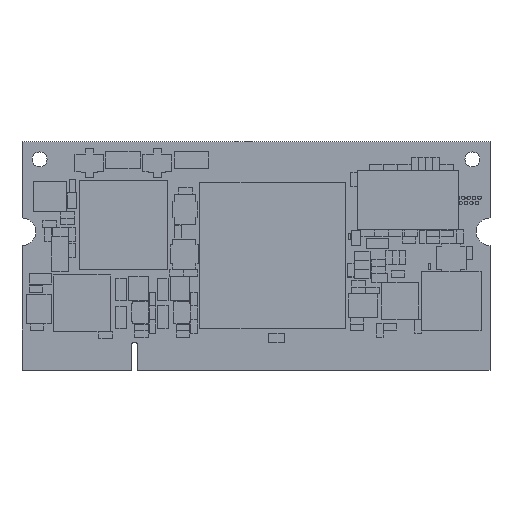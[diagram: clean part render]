
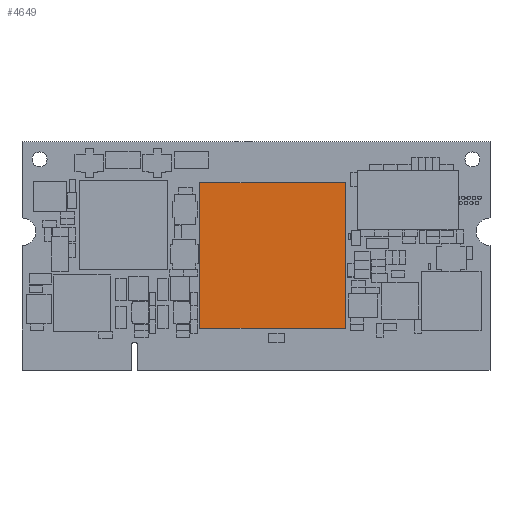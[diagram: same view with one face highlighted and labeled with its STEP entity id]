
A CAD part, top view. The second image highlights one B-rep face of the part: STEP entity #4649.
In plain terms, the highlighted planar face has unit normal (0, 0, 1).
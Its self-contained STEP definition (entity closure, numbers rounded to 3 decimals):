
#4400 = EDGE_CURVE ( 'NONE', #19506, #19451, #91615, .T. ) ;
#4404 = EDGE_CURVE ( 'NONE', #19451, #19415, #91638, .T. ) ;
#4407 = EDGE_CURVE ( 'NONE', #19415, #19565, #91662, .T. ) ;
#4409 = EDGE_CURVE ( 'NONE', #19565, #19506, #91673, .T. ) ;
#4649 = ADVANCED_FACE ( 'NONE', ( #13639 ), #93655, .F. ) ;
#5455 = VECTOR ( 'NONE', #91619, 1000. ) ;
#5466 = VECTOR ( 'NONE', #91642, 1000. ) ;
#5475 = VECTOR ( 'NONE', #91666, 1000. ) ;
#5480 = VECTOR ( 'NONE', #91677, 1000. ) ;
#6331 = ORIENTED_EDGE ( 'NONE', *, *, #4409, .T. ) ;
#6333 = ORIENTED_EDGE ( 'NONE', *, *, #4400, .T. ) ;
#6334 = ORIENTED_EDGE ( 'NONE', *, *, #4404, .T. ) ;
#6335 = ORIENTED_EDGE ( 'NONE', *, *, #4407, .T. ) ;
#11434 = EDGE_LOOP ( 'NONE', ( #6333, #6334, #6335, #6331 ) ) ;
#13639 = FACE_OUTER_BOUND ( 'NONE', #11434, .T. ) ;
#13645 = AXIS2_PLACEMENT_3D ( 'NONE', #93656, #93658, #93659 ) ;
#19415 = VERTEX_POINT ( 'NONE', #45264 ) ;
#19451 = VERTEX_POINT ( 'NONE', #45277 ) ;
#19506 = VERTEX_POINT ( 'NONE', #45300 ) ;
#19565 = VERTEX_POINT ( 'NONE', #45330 ) ;
#45264 = CARTESIAN_POINT ( 'NONE',  ( 33.315, 16.068, 3.16 ) ) ;
#45277 = CARTESIAN_POINT ( 'NONE',  ( 33.315, 37.069, 3.16 ) ) ;
#45300 = CARTESIAN_POINT ( 'NONE',  ( 54.315, 37.069, 3.16 ) ) ;
#45330 = CARTESIAN_POINT ( 'NONE',  ( 54.315, 16.068, 3.16 ) ) ;
#91615 = LINE ( 'NONE', #91618, #5455 ) ;
#91618 = CARTESIAN_POINT ( 'NONE',  ( 33.315, 37.069, 3.16 ) ) ;
#91619 = DIRECTION ( 'NONE',  ( -1., 0., 0. ) ) ;
#91638 = LINE ( 'NONE', #91641, #5466 ) ;
#91641 = CARTESIAN_POINT ( 'NONE',  ( 33.315, 16.068, 3.16 ) ) ;
#91642 = DIRECTION ( 'NONE',  ( 0., -1., 0. ) ) ;
#91662 = LINE ( 'NONE', #91663, #5475 ) ;
#91663 = CARTESIAN_POINT ( 'NONE',  ( 54.315, 16.068, 3.16 ) ) ;
#91666 = DIRECTION ( 'NONE',  ( 1., 0., 0. ) ) ;
#91673 = LINE ( 'NONE', #91675, #5480 ) ;
#91675 = CARTESIAN_POINT ( 'NONE',  ( 54.315, 37.069, 3.16 ) ) ;
#91677 = DIRECTION ( 'NONE',  ( 0., 1., 0. ) ) ;
#93655 = PLANE ( 'NONE',  #13645 ) ;
#93656 = CARTESIAN_POINT ( 'NONE',  ( 0., 0., 3.16 ) ) ;
#93658 = DIRECTION ( 'NONE',  ( 0., 0., -1. ) ) ;
#93659 = DIRECTION ( 'NONE',  ( -1., 0., 0. ) ) ;
